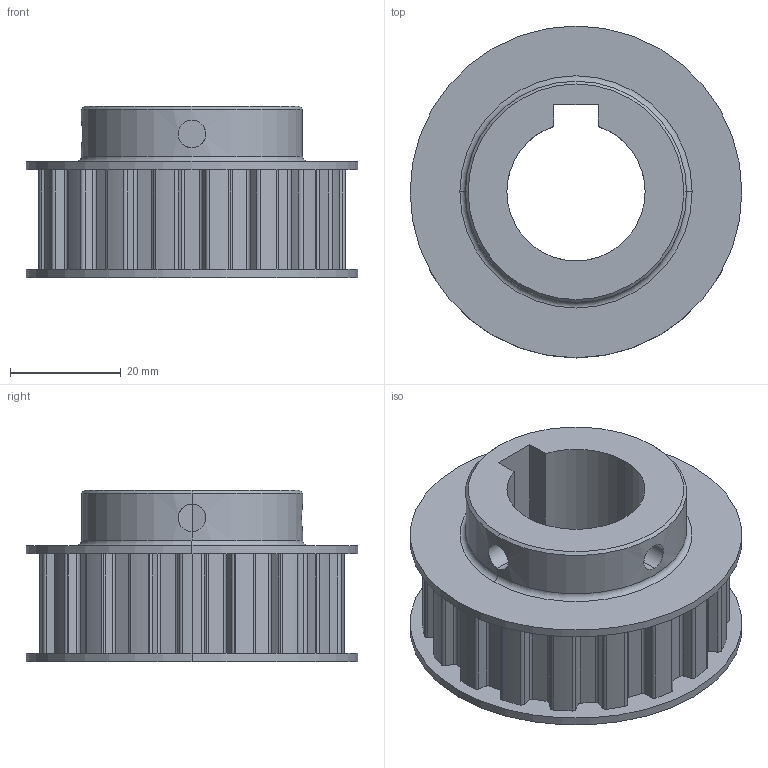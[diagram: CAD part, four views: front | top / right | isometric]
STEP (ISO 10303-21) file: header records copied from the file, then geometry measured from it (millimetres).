
FILE_DESCRIPTION (( 'STEP AP203' ), '1' );
FILE_NAME ('084.821.002.STEP', '2013-01-29T13:23:42', ( 'Alusic' ), ( 'Alusic' ), 'SwSTEP 2.0', 'SolidWorks 2011', '' );
FILE_SCHEMA (( 'CONFIG_CONTROL_DESIGN' ));
Length unit declared in the file: millimetre
Products named in the file (1): 084.821.002
Bounding box: 60 x 60 x 31 mm (x, y, z)
Volume: 44636 mm3; surface area: 14447.6 mm2
Topology: 1 solids, 1 shells, 182 faces, 529 edges, 350 vertices
Faces by surface type: cylinder 116, plane 62, torus 2, cone 2
Entity records: 6416 total; most frequent: CARTESIAN_POINT 1306, DIRECTION 1117, ORIENTED_EDGE 1058, EDGE_CURVE 529, AXIS2_PLACEMENT_3D 413, VERTEX_POINT 350, VECTOR 291, LINE 291
